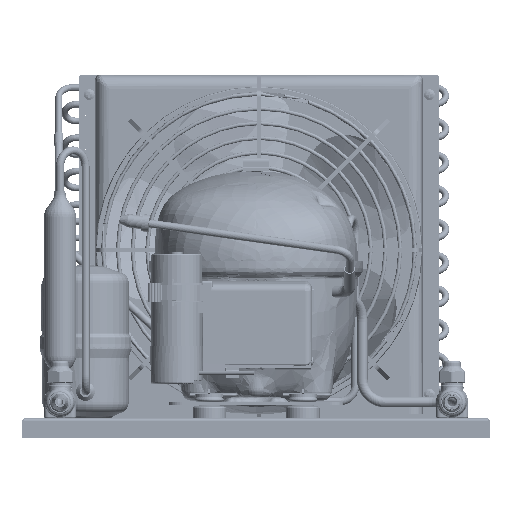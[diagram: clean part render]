
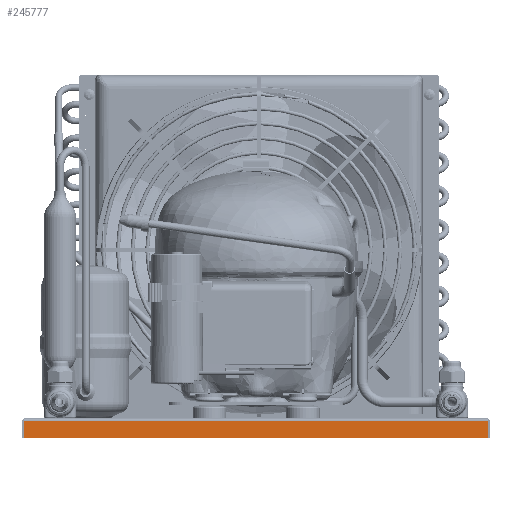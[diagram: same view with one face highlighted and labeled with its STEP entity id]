
A CAD part, front view. The second image highlights one B-rep face of the part: STEP entity #245777.
In plain terms, the highlighted planar face has unit normal (0, -1, 0).
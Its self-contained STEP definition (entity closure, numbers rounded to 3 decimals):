
#24134=LINE('',#655899,#41833);
#24139=LINE('',#655910,#41838);
#24141=LINE('',#655913,#41840);
#24146=LINE('',#655922,#41845);
#41833=VECTOR('',#369643,1000.);
#41838=VECTOR('',#369654,1000.);
#41840=VECTOR('',#369658,1000.);
#41845=VECTOR('',#369667,1000.);
#71019=ORIENTED_EDGE('',*,*,#138837,.F.);
#71020=ORIENTED_EDGE('',*,*,#138843,.F.);
#71021=ORIENTED_EDGE('',*,*,#138850,.T.);
#71022=ORIENTED_EDGE('',*,*,#138845,.T.);
#138837=EDGE_CURVE('',#174005,#174006,#24134,.T.);
#138843=EDGE_CURVE('',#174008,#174005,#24139,.T.);
#138845=EDGE_CURVE('',#174009,#174006,#24141,.T.);
#138850=EDGE_CURVE('',#174008,#174009,#24146,.T.);
#174005=VERTEX_POINT('',#655898);
#174006=VERTEX_POINT('',#655900);
#174008=VERTEX_POINT('',#655909);
#174009=VERTEX_POINT('',#655914);
#205212=EDGE_LOOP('',(#71019,#71020,#71021,#71022));
#222428=FACE_BOUND('',#205212,.T.);
#237167=PLANE('',#341209);
#245777=ADVANCED_FACE('',(#222428),#237167,.F.);
#341209=AXIS2_PLACEMENT_3D('',#655924,#369670,#369671);
#369643=DIRECTION('',(1.,0.,0.));
#369654=DIRECTION('',(0.,0.,1.));
#369658=DIRECTION('',(0.,0.,1.));
#369667=DIRECTION('',(1.,0.,0.));
#369670=DIRECTION('',(0.,1.,0.));
#369671=DIRECTION('',(0.,0.,1.));
#655898=CARTESIAN_POINT('',(-173.498,-225.,5.2));
#655899=CARTESIAN_POINT('',(-175.,-225.,5.2));
#655900=CARTESIAN_POINT('',(173.498,-225.,5.2));
#655909=CARTESIAN_POINT('',(-173.498,-225.,-7.5));
#655910=CARTESIAN_POINT('',(-173.498,-225.,7.5));
#655913=CARTESIAN_POINT('',(173.498,-225.,7.5));
#655914=CARTESIAN_POINT('',(173.498,-225.,-7.5));
#655922=CARTESIAN_POINT('',(-175.,-225.,-7.5));
#655924=CARTESIAN_POINT('',(-175.,-225.,7.5));
